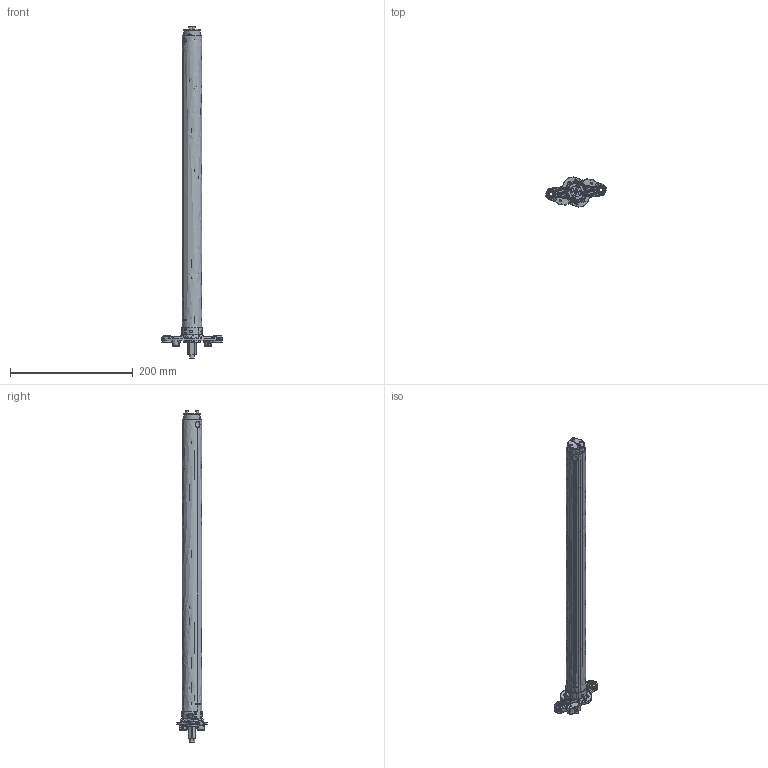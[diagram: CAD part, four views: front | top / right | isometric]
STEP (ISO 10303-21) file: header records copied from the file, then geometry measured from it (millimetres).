
FILE_DESCRIPTION(/* description */ (''),/* implementation_level */ '2;1');
FILE_NAME(/* name */ 'TBS2',/* time_stamp */ '2015-03-03T10:48:11+08:00',/* author */ (''),/* organization */ (''),/* preprocessor_version */ 'ST-DEVELOPER v15',/* originating_system */ '',/* authorisation */ '');
FILE_SCHEMA (('AUTOMOTIVE_DESIGN_CC2'));
Products named in the file (1): Document
Bounding box: 99.48 x 48.94 x 541 mm (x, y, z)
Volume: 72681.4 mm3; surface area: 126888.6 mm2
Topology: 12 solids, 22 shells, 1690 faces, 4267 edges, 2555 vertices
Faces by surface type: bspline 1690
Entity records: 237918 total; most frequent: CARTESIAN_POINT 185524, B_SPLINE_CURVE_WITH_KNOTS 10873, ORIENTED_EDGE 8206, PCURVE 8206, DEFINITIONAL_REPRESENTATION 8206, SURFACE_CURVE 4206, EDGE_CURVE 4206, VERTEX_POINT 2554
